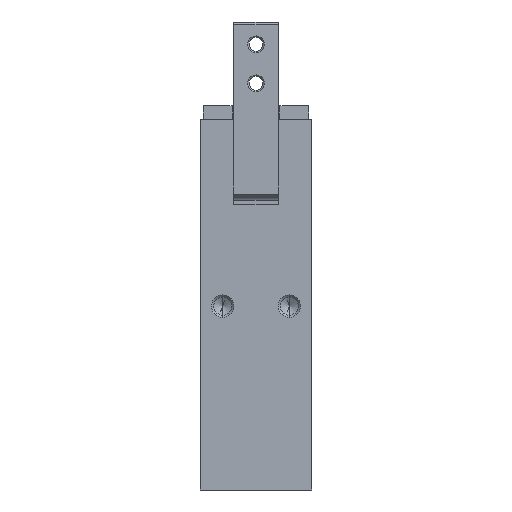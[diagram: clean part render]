
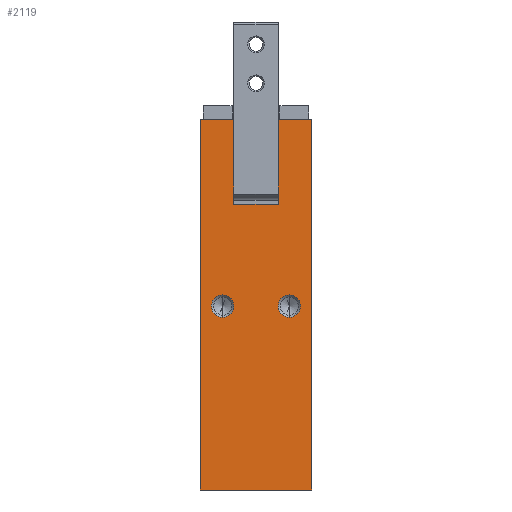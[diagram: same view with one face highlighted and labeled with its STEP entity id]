
A CAD part, left-side view. The second image highlights one B-rep face of the part: STEP entity #2119.
In plain terms, the highlighted planar face has unit normal (-1, 0, 0).
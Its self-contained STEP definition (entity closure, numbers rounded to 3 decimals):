
#43 = CARTESIAN_POINT ( 'NONE',  ( -19., 6., 31. ) ) ;
#98 = DIRECTION ( 'NONE',  ( 1., 0., 0. ) ) ;
#158 = VERTEX_POINT ( 'NONE', #2919 ) ;
#162 = FACE_BOUND ( 'NONE', #3083, .T. ) ;
#196 = CARTESIAN_POINT ( 'NONE',  ( -19., 10., 66.5 ) ) ;
#212 = CIRCLE ( 'NONE', #2093, 2. ) ;
#231 = VECTOR ( 'NONE', #480, 1000. ) ;
#271 = DIRECTION ( 'NONE',  ( 0., 0., -1. ) ) ;
#349 = AXIS2_PLACEMENT_3D ( 'NONE', #3316, #825, #271 ) ;
#397 = ORIENTED_EDGE ( 'NONE', *, *, #4496, .T. ) ;
#399 = CARTESIAN_POINT ( 'NONE',  ( -19., -6., 33. ) ) ;
#480 = DIRECTION ( 'NONE',  ( 0., 0., -1. ) ) ;
#503 = CARTESIAN_POINT ( 'NONE',  ( -19., -10., 0. ) ) ;
#522 = ORIENTED_EDGE ( 'NONE', *, *, #5372, .T. ) ;
#559 = DIRECTION ( 'NONE',  ( 0., 0., -1. ) ) ;
#621 = CARTESIAN_POINT ( 'NONE',  ( -19., -6., 33. ) ) ;
#648 = CARTESIAN_POINT ( 'NONE',  ( -19., 10., 66.5 ) ) ;
#702 = VERTEX_POINT ( 'NONE', #1822 ) ;
#731 = CARTESIAN_POINT ( 'NONE',  ( -19., -4., 66.5 ) ) ;
#781 = VECTOR ( 'NONE', #5327, 1000. ) ;
#825 = DIRECTION ( 'NONE',  ( 1., 0., 0. ) ) ;
#852 = ORIENTED_EDGE ( 'NONE', *, *, #1571, .T. ) ;
#899 = DIRECTION ( 'NONE',  ( 1., 0., 0. ) ) ;
#1168 = DIRECTION ( 'NONE',  ( 0., 0., -1. ) ) ;
#1212 = DIRECTION ( 'NONE',  ( 0., -1., 0. ) ) ;
#1347 = EDGE_LOOP ( 'NONE', ( #522, #2628, #4040, #5276, #3264, #2365, #5524, #1817 ) ) ;
#1461 = EDGE_CURVE ( 'NONE', #6382, #702, #2658, .T. ) ;
#1475 = CARTESIAN_POINT ( 'NONE',  ( -19., 4., 51.31 ) ) ;
#1538 = EDGE_CURVE ( 'NONE', #3040, #4698, #5186, .T. ) ;
#1571 = EDGE_CURVE ( 'NONE', #158, #3078, #212, .T. ) ;
#1677 = FACE_BOUND ( 'NONE', #1923, .T. ) ;
#1708 = VERTEX_POINT ( 'NONE', #4017 ) ;
#1801 = ORIENTED_EDGE ( 'NONE', *, *, #1461, .T. ) ;
#1817 = ORIENTED_EDGE ( 'NONE', *, *, #4599, .T. ) ;
#1822 = CARTESIAN_POINT ( 'NONE',  ( -19., 6., 35. ) ) ;
#1923 = EDGE_LOOP ( 'NONE', ( #3269, #1801 ) ) ;
#2093 = AXIS2_PLACEMENT_3D ( 'NONE', #621, #2130, #559 ) ;
#2104 = CARTESIAN_POINT ( 'NONE',  ( -19., -10., 66.5 ) ) ;
#2119 = ADVANCED_FACE ( 'NONE', ( #3951, #162, #1677 ), #6164, .F. ) ;
#2130 = DIRECTION ( 'NONE',  ( 1., 0., 0. ) ) ;
#2304 = CARTESIAN_POINT ( 'NONE',  ( -19., 10., 66.5 ) ) ;
#2365 = ORIENTED_EDGE ( 'NONE', *, *, #6420, .F. ) ;
#2406 = CARTESIAN_POINT ( 'NONE',  ( -19., 6., 33. ) ) ;
#2480 = DIRECTION ( 'NONE',  ( 0., -1., 0. ) ) ;
#2628 = ORIENTED_EDGE ( 'NONE', *, *, #4135, .F. ) ;
#2658 = CIRCLE ( 'NONE', #6437, 2. ) ;
#2757 = VECTOR ( 'NONE', #4958, 1000. ) ;
#2777 = EDGE_CURVE ( 'NONE', #702, #6382, #6160, .T. ) ;
#2840 = EDGE_CURVE ( 'NONE', #6482, #1708, #4309, .T. ) ;
#2903 = CIRCLE ( 'NONE', #3068, 2. ) ;
#2908 = DIRECTION ( 'NONE',  ( 0., 0., -1. ) ) ;
#2919 = CARTESIAN_POINT ( 'NONE',  ( -19., -6., 35. ) ) ;
#2939 = CARTESIAN_POINT ( 'NONE',  ( -19., 10., 0. ) ) ;
#2941 = DIRECTION ( 'NONE',  ( 0., 0., -1. ) ) ;
#2962 = CARTESIAN_POINT ( 'NONE',  ( -19., 4., 51.31 ) ) ;
#3040 = VERTEX_POINT ( 'NONE', #4033 ) ;
#3068 = AXIS2_PLACEMENT_3D ( 'NONE', #399, #5519, #2941 ) ;
#3078 = VERTEX_POINT ( 'NONE', #5102 ) ;
#3079 = VERTEX_POINT ( 'NONE', #2104 ) ;
#3083 = EDGE_LOOP ( 'NONE', ( #852, #397 ) ) ;
#3105 = CARTESIAN_POINT ( 'NONE',  ( -19., 10., 66.5 ) ) ;
#3206 = VECTOR ( 'NONE', #1168, 1000. ) ;
#3264 = ORIENTED_EDGE ( 'NONE', *, *, #5457, .F. ) ;
#3268 = AXIS2_PLACEMENT_3D ( 'NONE', #3105, #98, #3627 ) ;
#3269 = ORIENTED_EDGE ( 'NONE', *, *, #2777, .T. ) ;
#3294 = LINE ( 'NONE', #2962, #3373 ) ;
#3316 = CARTESIAN_POINT ( 'NONE',  ( -19., 6., 33. ) ) ;
#3373 = VECTOR ( 'NONE', #4977, 1000. ) ;
#3400 = CARTESIAN_POINT ( 'NONE',  ( -19., 4., 66.5 ) ) ;
#3627 = DIRECTION ( 'NONE',  ( 0., 1., 0. ) ) ;
#3931 = CARTESIAN_POINT ( 'NONE',  ( -19., -10., 66.5 ) ) ;
#3951 = FACE_OUTER_BOUND ( 'NONE', #1347, .T. ) ;
#3961 = VECTOR ( 'NONE', #2480, 1000. ) ;
#4017 = CARTESIAN_POINT ( 'NONE',  ( -19., -4., 51.31 ) ) ;
#4033 = CARTESIAN_POINT ( 'NONE',  ( -19., 10., 0. ) ) ;
#4040 = ORIENTED_EDGE ( 'NONE', *, *, #5737, .T. ) ;
#4074 = LINE ( 'NONE', #4422, #2757 ) ;
#4135 = EDGE_CURVE ( 'NONE', #5191, #6078, #4609, .T. ) ;
#4219 = VECTOR ( 'NONE', #1212, 1000. ) ;
#4240 = LINE ( 'NONE', #3931, #231 ) ;
#4309 = LINE ( 'NONE', #5405, #781 ) ;
#4313 = LINE ( 'NONE', #648, #3206 ) ;
#4422 = CARTESIAN_POINT ( 'NONE',  ( -19., -4., 51.31 ) ) ;
#4496 = EDGE_CURVE ( 'NONE', #3078, #158, #2903, .T. ) ;
#4599 = EDGE_CURVE ( 'NONE', #1708, #5478, #4074, .T. ) ;
#4609 = LINE ( 'NONE', #4680, #5976 ) ;
#4628 = LINE ( 'NONE', #196, #4219 ) ;
#4668 = DIRECTION ( 'NONE',  ( 0., -1., 0. ) ) ;
#4680 = CARTESIAN_POINT ( 'NONE',  ( -19., 10., 66.5 ) ) ;
#4698 = VERTEX_POINT ( 'NONE', #503 ) ;
#4958 = DIRECTION ( 'NONE',  ( 0., 1., 0. ) ) ;
#4977 = DIRECTION ( 'NONE',  ( 0., 0., 1. ) ) ;
#5102 = CARTESIAN_POINT ( 'NONE',  ( -19., -6., 31. ) ) ;
#5186 = LINE ( 'NONE', #2939, #3961 ) ;
#5191 = VERTEX_POINT ( 'NONE', #2304 ) ;
#5276 = ORIENTED_EDGE ( 'NONE', *, *, #1538, .T. ) ;
#5327 = DIRECTION ( 'NONE',  ( 0., 0., -1. ) ) ;
#5372 = EDGE_CURVE ( 'NONE', #5478, #6078, #3294, .T. ) ;
#5405 = CARTESIAN_POINT ( 'NONE',  ( -19., -4., 66.5 ) ) ;
#5457 = EDGE_CURVE ( 'NONE', #3079, #4698, #4240, .T. ) ;
#5478 = VERTEX_POINT ( 'NONE', #1475 ) ;
#5519 = DIRECTION ( 'NONE',  ( 1., 0., 0. ) ) ;
#5524 = ORIENTED_EDGE ( 'NONE', *, *, #2840, .T. ) ;
#5737 = EDGE_CURVE ( 'NONE', #5191, #3040, #4313, .T. ) ;
#5976 = VECTOR ( 'NONE', #4668, 1000. ) ;
#6078 = VERTEX_POINT ( 'NONE', #3400 ) ;
#6160 = CIRCLE ( 'NONE', #349, 2. ) ;
#6164 = PLANE ( 'NONE',  #3268 ) ;
#6382 = VERTEX_POINT ( 'NONE', #43 ) ;
#6420 = EDGE_CURVE ( 'NONE', #6482, #3079, #4628, .T. ) ;
#6437 = AXIS2_PLACEMENT_3D ( 'NONE', #2406, #899, #2908 ) ;
#6482 = VERTEX_POINT ( 'NONE', #731 ) ;
